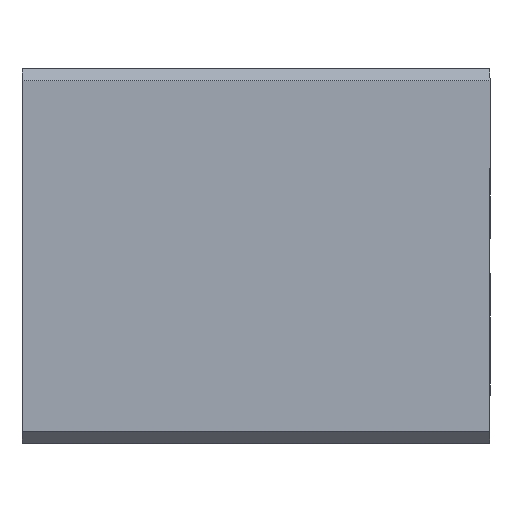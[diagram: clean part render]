
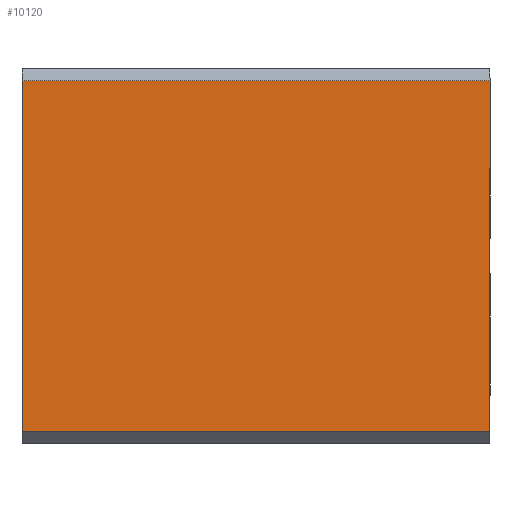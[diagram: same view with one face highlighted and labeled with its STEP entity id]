
A CAD part, front view. The second image highlights one B-rep face of the part: STEP entity #10120.
In plain terms, the highlighted planar face has unit normal (0, -1, 0).
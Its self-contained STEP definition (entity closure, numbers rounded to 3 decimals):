
#292 = PLANE ( 'NONE',  #5148 ) ;
#358 = DIRECTION ( 'NONE',  ( 0., 0., 1. ) ) ;
#1539 = DIRECTION ( 'NONE',  ( 0., 0., -1. ) ) ;
#1689 = VECTOR ( 'NONE', #13597, 1000. ) ;
#2097 = CARTESIAN_POINT ( 'NONE',  ( -2.538, 7.456, -7.5 ) ) ;
#2390 = CARTESIAN_POINT ( 'NONE',  ( -2.538, 7.456, 7.5 ) ) ;
#3072 = LINE ( 'NONE', #18275, #12205 ) ;
#4427 = DIRECTION ( 'NONE',  ( -1., 0., 0. ) ) ;
#5025 = EDGE_CURVE ( 'NONE', #8769, #18390, #6260, .T. ) ;
#5148 = AXIS2_PLACEMENT_3D ( 'NONE', #20960, #10643, #358 ) ;
#5916 = ORIENTED_EDGE ( 'NONE', *, *, #5025, .T. ) ;
#6260 = LINE ( 'NONE', #11796, #19456 ) ;
#6283 = ORIENTED_EDGE ( 'NONE', *, *, #22201, .T. ) ;
#7036 = EDGE_CURVE ( 'NONE', #8769, #7376, #19956, .T. ) ;
#7376 = VERTEX_POINT ( 'NONE', #2390 ) ;
#8136 = VECTOR ( 'NONE', #8914, 1000. ) ;
#8510 = CARTESIAN_POINT ( 'NONE',  ( -22.538, 7.456, -7.5 ) ) ;
#8679 = ORIENTED_EDGE ( 'NONE', *, *, #21907, .F. ) ;
#8769 = VERTEX_POINT ( 'NONE', #19781 ) ;
#8914 = DIRECTION ( 'NONE',  ( 0., 0., 1. ) ) ;
#10120 = ADVANCED_FACE ( 'NONE', ( #11625 ), #292, .F. ) ;
#10643 = DIRECTION ( 'NONE',  ( 0., 1., 0. ) ) ;
#11625 = FACE_OUTER_BOUND ( 'NONE', #13559, .T. ) ;
#11796 = CARTESIAN_POINT ( 'NONE',  ( -22.538, 7.456, 0. ) ) ;
#12205 = VECTOR ( 'NONE', #4427, 1000. ) ;
#12351 = CARTESIAN_POINT ( 'NONE',  ( -2.538, 7.456, 0. ) ) ;
#13559 = EDGE_LOOP ( 'NONE', ( #8679, #6283, #16400, #5916 ) ) ;
#13597 = DIRECTION ( 'NONE',  ( 1., 0., 0. ) ) ;
#16400 = ORIENTED_EDGE ( 'NONE', *, *, #7036, .F. ) ;
#16888 = VERTEX_POINT ( 'NONE', #2097 ) ;
#17300 = LINE ( 'NONE', #12351, #8136 ) ;
#18275 = CARTESIAN_POINT ( 'NONE',  ( -12.538, 7.456, -7.5 ) ) ;
#18390 = VERTEX_POINT ( 'NONE', #8510 ) ;
#19456 = VECTOR ( 'NONE', #1539, 1000. ) ;
#19781 = CARTESIAN_POINT ( 'NONE',  ( -22.538, 7.456, 7.5 ) ) ;
#19956 = LINE ( 'NONE', #22225, #1689 ) ;
#20960 = CARTESIAN_POINT ( 'NONE',  ( -22.538, 7.456, -7.5 ) ) ;
#21907 = EDGE_CURVE ( 'NONE', #16888, #18390, #3072, .T. ) ;
#22201 = EDGE_CURVE ( 'NONE', #16888, #7376, #17300, .T. ) ;
#22225 = CARTESIAN_POINT ( 'NONE',  ( -12.538, 7.456, 7.5 ) ) ;
